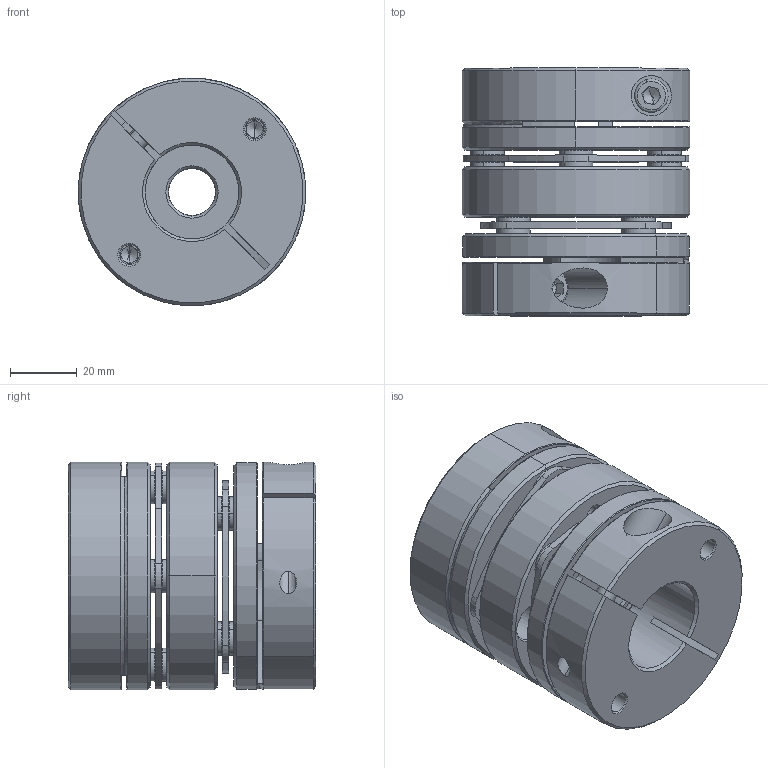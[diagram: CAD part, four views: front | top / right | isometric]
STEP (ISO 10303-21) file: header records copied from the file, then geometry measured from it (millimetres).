
FILE_DESCRIPTION (( 'STEP AP203' ), '1' );
FILE_NAME ('LD2-D68-14-28.STEP', '2021-10-26T08:15:54', ( '' ), ( '' ), 'SwSTEP 2.0', 'SolidWorks 2018', '' );
FILE_SCHEMA (( 'CONFIG_CONTROL_DESIGN' ));
Length unit declared in the file: millimetre
Products named in the file (2): 錨璃102^LD2-D68; LD2-D68-14-28
Assembly tree (1 placements, depth 2):
  LD2-D68-14-28
    錨璃102^LD2-D68
Bounding box: 68 x 74 x 68 mm (x, y, z)
Volume: 186505.7 mm3; surface area: 64323.2 mm2
Topology: 1 solids, 27 shells, 734 faces, 1712 edges, 1042 vertices
Faces by surface type: cylinder 256, cone 226, plane 222, torus 30
Entity records: 21554 total; most frequent: DIRECTION 4004, CARTESIAN_POINT 3937, ORIENTED_EDGE 3376, EDGE_CURVE 1688, AXIS2_PLACEMENT_3D 1625, VERTEX_POINT 1042, CIRCLE 887, EDGE_LOOP 870
